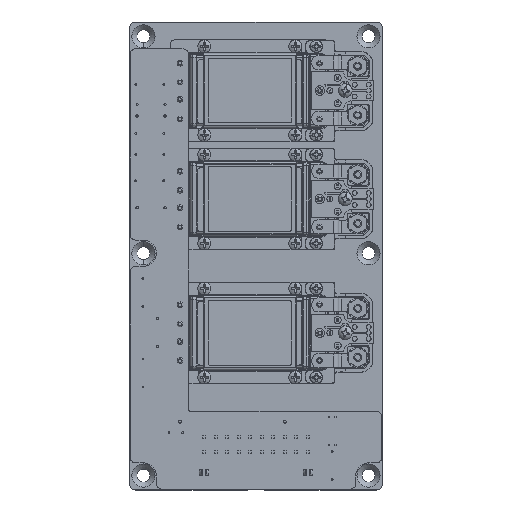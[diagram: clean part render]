
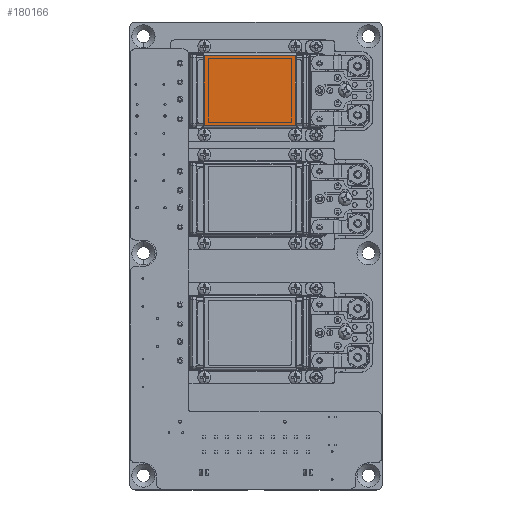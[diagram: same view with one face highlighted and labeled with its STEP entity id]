
A CAD part, top view. The second image highlights one B-rep face of the part: STEP entity #180166.
In plain terms, the highlighted planar face has unit normal (0, 0, 1).
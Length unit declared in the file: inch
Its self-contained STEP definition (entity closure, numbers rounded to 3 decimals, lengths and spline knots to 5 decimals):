
#64738 = VECTOR ( 'NONE', #83227, 39.37008 ) ;
#64739 = VECTOR ( 'NONE', #83230, 39.37008 ) ;
#64740 = VECTOR ( 'NONE', #83232, 39.37008 ) ;
#64741 = VECTOR ( 'NONE', #83234, 39.37008 ) ;
#75808 = LINE ( 'NONE', #83225, #64738 ) ;
#75809 = LINE ( 'NONE', #83229, #64739 ) ;
#75810 = LINE ( 'NONE', #83231, #64740 ) ;
#75811 = LINE ( 'NONE', #83233, #64741 ) ;
#83225 = CARTESIAN_POINT ( 'NONE',  ( -6.33607, 4.08199, 1.88555 ) ) ;
#83227 = DIRECTION ( 'NONE',  ( 0., 1., 0. ) ) ;
#83229 = CARTESIAN_POINT ( 'NONE',  ( -5.03217, 4.08199, 1.88555 ) ) ;
#83230 = DIRECTION ( 'NONE',  ( 1., 0., 0. ) ) ;
#83231 = CARTESIAN_POINT ( 'NONE',  ( -6.33607, 3.07899, 1.88555 ) ) ;
#83232 = DIRECTION ( 'NONE',  ( -1., 0., 0. ) ) ;
#83233 = CARTESIAN_POINT ( 'NONE',  ( -5.03217, 3.07899, 1.88555 ) ) ;
#83234 = DIRECTION ( 'NONE',  ( 0., -1., 0. ) ) ;
#87079 = PLANE ( 'NONE',  #91556 ) ;
#87080 = CARTESIAN_POINT ( 'NONE',  ( 2.38039, -2.06937, 1.88555 ) ) ;
#87082 = DIRECTION ( 'NONE',  ( 0., 0., 1. ) ) ;
#87084 = DIRECTION ( 'NONE',  ( 0., 1., 0. ) ) ;
#89693 = FACE_OUTER_BOUND ( 'NONE', #119748, .T. ) ;
#91556 = AXIS2_PLACEMENT_3D ( 'NONE', #87080, #87082, #87084 ) ;
#119748 = EDGE_LOOP ( 'NONE', ( #171318, #171324, #171320, #171327 ) ) ;
#171318 = ORIENTED_EDGE ( 'NONE', *, *, #179015, .F. ) ;
#171320 = ORIENTED_EDGE ( 'NONE', *, *, #179020, .F. ) ;
#171324 = ORIENTED_EDGE ( 'NONE', *, *, #179013, .F. ) ;
#171327 = ORIENTED_EDGE ( 'NONE', *, *, #179022, .F. ) ;
#179013 = EDGE_CURVE ( 'NONE', #277668, #277717, #75808, .T. ) ;
#179015 = EDGE_CURVE ( 'NONE', #277717, #277726, #75809, .T. ) ;
#179020 = EDGE_CURVE ( 'NONE', #277754, #277668, #75810, .T. ) ;
#179022 = EDGE_CURVE ( 'NONE', #277726, #277754, #75811, .T. ) ;
#180166 = ADVANCED_FACE ( 'NONE', ( #89693 ), #87079, .T. ) ;
#277668 = VERTEX_POINT ( 'NONE', #326212 ) ;
#277717 = VERTEX_POINT ( 'NONE', #326297 ) ;
#277726 = VERTEX_POINT ( 'NONE', #326310 ) ;
#277754 = VERTEX_POINT ( 'NONE', #326350 ) ;
#326212 = CARTESIAN_POINT ( 'NONE',  ( -6.33607, 3.07899, 1.88555 ) ) ;
#326297 = CARTESIAN_POINT ( 'NONE',  ( -6.33607, 4.08199, 1.88555 ) ) ;
#326310 = CARTESIAN_POINT ( 'NONE',  ( -5.03217, 4.08199, 1.88555 ) ) ;
#326350 = CARTESIAN_POINT ( 'NONE',  ( -5.03217, 3.07899, 1.88555 ) ) ;
